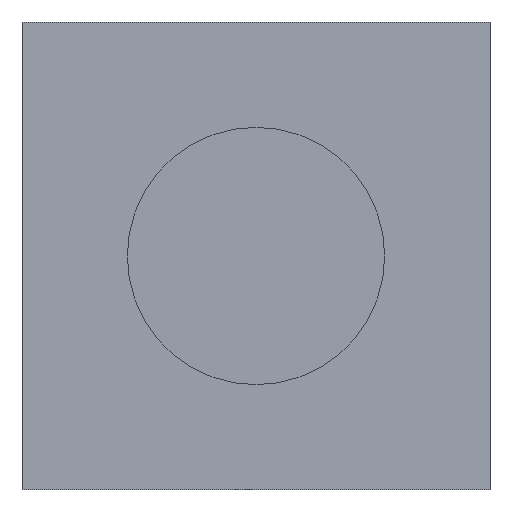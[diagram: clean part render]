
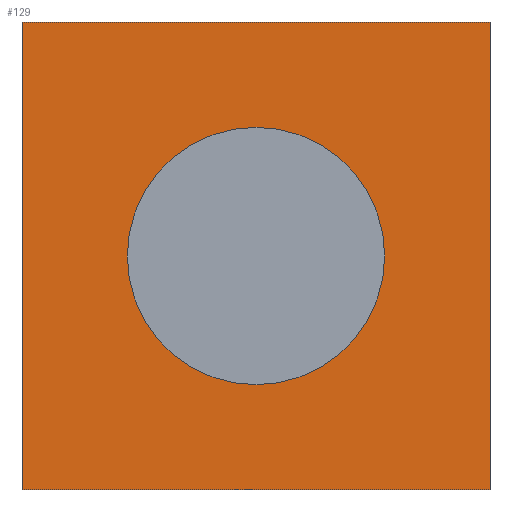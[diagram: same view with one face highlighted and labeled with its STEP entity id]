
A CAD part, left-side view. The second image highlights one B-rep face of the part: STEP entity #129.
In plain terms, the highlighted planar face has unit normal (-1, 0, 0).
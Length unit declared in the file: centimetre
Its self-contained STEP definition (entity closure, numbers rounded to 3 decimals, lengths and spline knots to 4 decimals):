
#15=FACE_BOUND('',#37,.T.);
#20=PLANE('',#153);
#28=FACE_OUTER_BOUND('',#36,.T.);
#36=EDGE_LOOP('',(#110,#111,#112,#113));
#37=EDGE_LOOP('',(#114));
#43=LINE('',#206,#56);
#47=LINE('',#215,#60);
#49=LINE('',#218,#62);
#51=LINE('',#221,#64);
#56=VECTOR('',#171,1.);
#60=VECTOR('',#177,1.);
#62=VECTOR('',#181,1.);
#64=VECTOR('',#185,1.);
#66=CIRCLE('',#147,0.165);
#68=VERTEX_POINT('',#193);
#72=VERTEX_POINT('',#203);
#73=VERTEX_POINT('',#205);
#76=VERTEX_POINT('',#212);
#77=VERTEX_POINT('',#214);
#78=EDGE_CURVE('',#68,#68,#66,.T.);
#83=EDGE_CURVE('',#72,#73,#43,.T.);
#87=EDGE_CURVE('',#76,#77,#47,.T.);
#89=EDGE_CURVE('',#73,#76,#49,.T.);
#91=EDGE_CURVE('',#72,#77,#51,.T.);
#110=ORIENTED_EDGE('',*,*,#91,.T.);
#111=ORIENTED_EDGE('',*,*,#87,.F.);
#112=ORIENTED_EDGE('',*,*,#89,.F.);
#113=ORIENTED_EDGE('',*,*,#83,.F.);
#114=ORIENTED_EDGE('',*,*,#78,.T.);
#129=ADVANCED_FACE('',(#28,#15),#20,.F.);
#147=AXIS2_PLACEMENT_3D('',#194,#160,#161);
#153=AXIS2_PLACEMENT_3D('',#220,#183,#184);
#160=DIRECTION('center_axis',(1.,0.,0.));
#161=DIRECTION('ref_axis',(0.,0.,-1.));
#171=DIRECTION('',(0.,-1.,0.));
#177=DIRECTION('',(0.,1.,0.));
#181=DIRECTION('',(0.,0.,-1.));
#183=DIRECTION('center_axis',(1.,0.,0.));
#184=DIRECTION('ref_axis',(0.,0.,-1.));
#185=DIRECTION('',(0.,0.,-1.));
#193=CARTESIAN_POINT('',(-3.01,1.6,-0.665));
#194=CARTESIAN_POINT('Origin',(-3.01,1.6,-0.83));
#203=CARTESIAN_POINT('',(-3.01,1.9,-0.53));
#205=CARTESIAN_POINT('',(-3.01,1.3,-0.53));
#206=CARTESIAN_POINT('',(-3.01,1.6,-0.53));
#212=CARTESIAN_POINT('',(-3.01,1.3,-1.13));
#214=CARTESIAN_POINT('',(-3.01,1.9,-1.13));
#215=CARTESIAN_POINT('',(-3.01,1.6,-1.13));
#218=CARTESIAN_POINT('',(-3.01,1.3,-0.83));
#220=CARTESIAN_POINT('Origin',(-3.01,1.6,-0.83));
#221=CARTESIAN_POINT('',(-3.01,1.9,-0.83));
